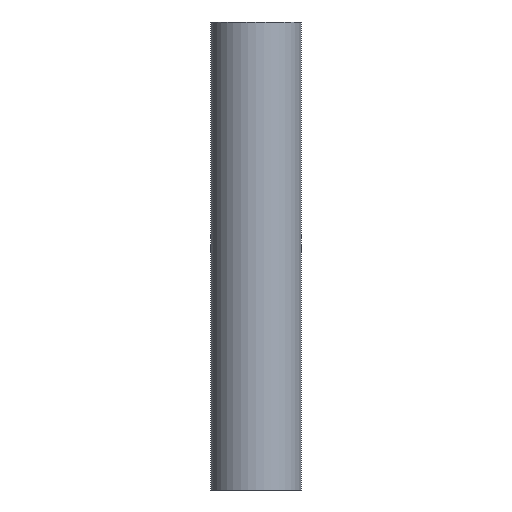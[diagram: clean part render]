
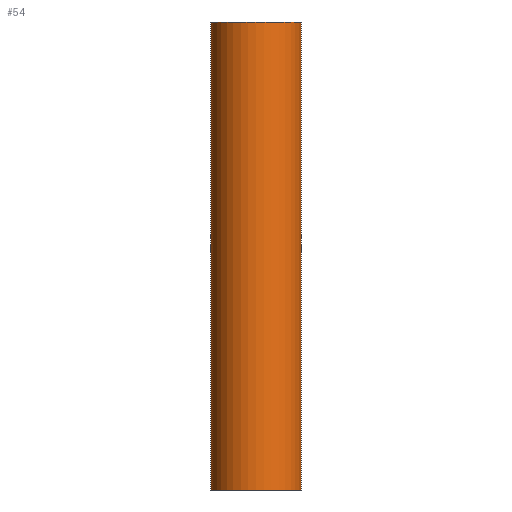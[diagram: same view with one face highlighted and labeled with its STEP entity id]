
A CAD part, front view. The second image highlights one B-rep face of the part: STEP entity #54.
In plain terms, the highlighted cylindrical face has radius 1.08 mm (diameter 2.16 mm), a full revolution.
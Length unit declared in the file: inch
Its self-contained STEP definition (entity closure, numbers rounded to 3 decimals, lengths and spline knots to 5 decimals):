
#16=FACE_BOUND($,#26,.T.);
#22=FACE_OUTER_BOUND($,#25,.T.);
#25=EDGE_LOOP($,(#45));
#26=EDGE_LOOP($,(#46));
#33=CIRCLE($,#64,0.04253);
#34=CIRCLE($,#65,0.04253);
#37=VERTEX_POINT($,#93);
#38=VERTEX_POINT($,#95);
#41=EDGE_CURVE($,#37,#37,#33,.T.);
#42=EDGE_CURVE($,#38,#38,#34,.T.);
#45=ORIENTED_EDGE($,*,*,#41,.T.);
#46=ORIENTED_EDGE($,*,*,#42,.F.);
#52=CYLINDRICAL_SURFACE($,#63,0.04253);
#54=ADVANCED_FACE($,(#22,#16),#52,.T.);
#63=AXIS2_PLACEMENT_3D($,#92,#76,#77);
#64=AXIS2_PLACEMENT_3D($,#94,#78,#79);
#65=AXIS2_PLACEMENT_3D($,#96,#80,#81);
#76=DIRECTION('center_axis',(0.,0.,-1.));
#77=DIRECTION('ref_axis',(-1.,0.,0.));
#78=DIRECTION('center_axis',(0.,0.,-1.));
#79=DIRECTION('ref_axis',(-1.,0.,0.));
#80=DIRECTION('center_axis',(0.,0.,
-1.));
#81=DIRECTION('ref_axis',(-1.,0.,0.));
#92=CARTESIAN_POINT('Origin',(0.,0.19243,0.));
#93=CARTESIAN_POINT('',(0.04253,0.19243,0.));
#94=CARTESIAN_POINT('Origin',(0.,0.19243,0.));
#95=CARTESIAN_POINT('',(0.04253,0.19243,-0.44));
#96=CARTESIAN_POINT('Origin',(0.,0.19243,-0.44));
